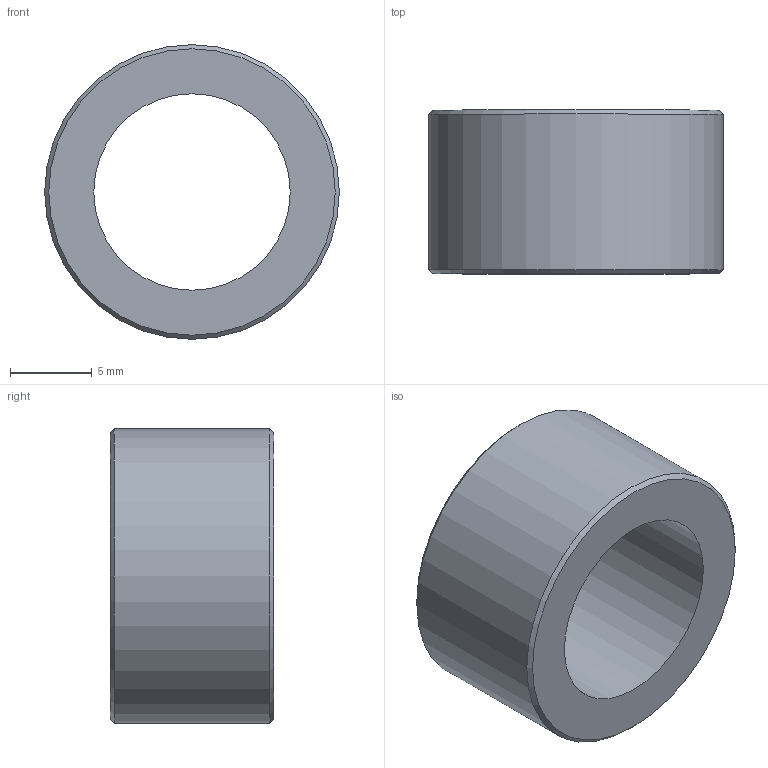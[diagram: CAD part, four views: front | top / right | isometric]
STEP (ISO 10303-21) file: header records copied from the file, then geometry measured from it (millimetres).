
FILE_DESCRIPTION(/* description */ ('','CAx-IF Rec.Pracs.---Representation and Presentation of Product Manufacturing Information (PMI)---4.0---2014-10-13'),/* implementation_level */ '2;1');
FILE_NAME(/* name */ 'Aluminium Spacer - 12mm - 10mm.step',/* time_stamp */ '2024-11-30T18:41:06+02:00',/* author */ (''),/* organization */ (''),/* preprocessor_version */ 'ST-DEVELOPER v20',/* originating_system */ 'Autodesk Translation Framework v13.20.0.188',/* authorisation */ '');
FILE_SCHEMA (('AP242_MANAGED_MODEL_BASED_3D_ENGINEERING_MIM_LF { 1 0 10303 442 1 1 4 }'));
Length unit declared in the file: millimetre
Products named in the file (1): Aluminium Spacer - 12mm - 10mm
Bounding box: 18 x 10 x 18 mm (x, y, z)
Volume: 1410.2 mm3; surface area: 1208.5 mm2
Topology: 1 solids, 1 shells, 6 faces, 10 edges, 6 vertices
Faces by surface type: cone 2, cylinder 2, plane 2
Full cylindrical faces by diameter (mm): 12 x1, 18 x1
Entity records: 181 total; most frequent: DIRECTION 30, CARTESIAN_POINT 23, ORIENTED_EDGE 20, AXIS2_PLACEMENT_3D 13, EDGE_CURVE 10, EDGE_LOOP 8, FACE_OUTER_BOUND 6, CIRCLE 6
